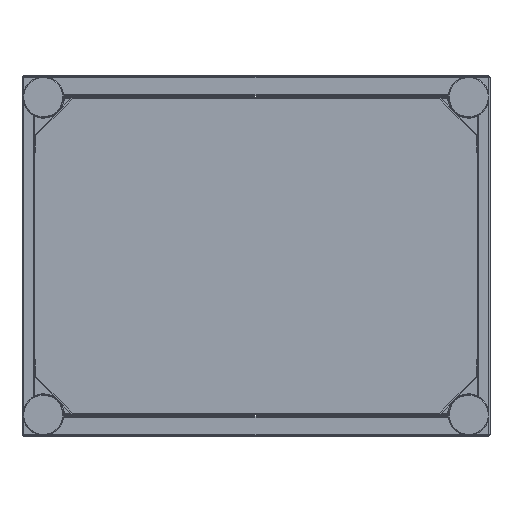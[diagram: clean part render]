
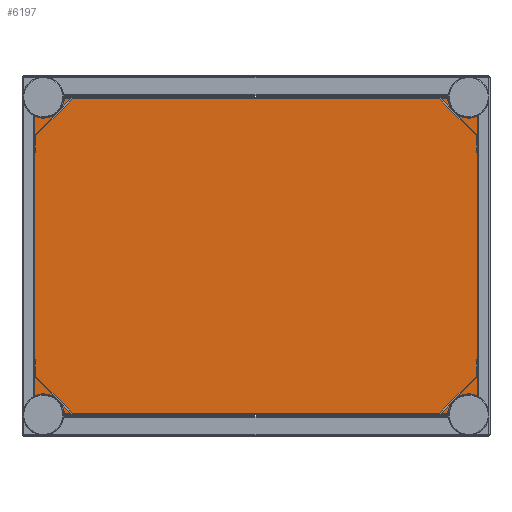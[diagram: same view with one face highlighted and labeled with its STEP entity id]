
A CAD part, front view. The second image highlights one B-rep face of the part: STEP entity #6197.
In plain terms, the highlighted planar face has unit normal (0, -1, 0).
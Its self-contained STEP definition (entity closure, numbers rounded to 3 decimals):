
#5638=CARTESIAN_POINT('',(315.85,-375.,-235.85));
#5639=DIRECTION('',(0.,1.,0.));
#5640=DIRECTION('',(-1.,0.,0.027));
#5641=AXIS2_PLACEMENT_3D('',#5638,#5639,#5640);
#5715=CARTESIAN_POINT('',(315.85,-375.,235.85));
#5716=DIRECTION('',(0.,1.,0.));
#5717=DIRECTION('',(0.422,0.,-0.907));
#5718=AXIS2_PLACEMENT_3D('',#5715,#5716,#5717);
#5796=DIRECTION('',(-1.,0.,0.));
#5797=VECTOR('',#5796,569.423);
#5798=CARTESIAN_POINT('',(284.712,-375.,235.));
#5799=LINE('',#5798,#5797);
#5800=DIRECTION('',(0.,0.,1.));
#5801=VECTOR('',#5800,415.223);
#5802=CARTESIAN_POINT('',(329.,-375.,-207.612));
#5803=LINE('',#5802,#5801);
#5804=DIRECTION('',(1.,0.,0.));
#5805=VECTOR('',#5804,569.423);
#5806=CARTESIAN_POINT('',(-284.712,-375.,-235.));
#5807=LINE('',#5806,#5805);
#5808=DIRECTION('',(0.,0.,-1.));
#5809=VECTOR('',#5808,415.223);
#5810=CARTESIAN_POINT('',(-329.,-375.,207.612));
#5811=LINE('',#5810,#5809);
#5836=CARTESIAN_POINT('',(-315.85,-375.,235.85));
#5837=DIRECTION('',(0.,1.,0.));
#5838=DIRECTION('',(1.,0.,-0.027));
#5839=AXIS2_PLACEMENT_3D('',#5836,#5837,#5838);
#5857=CARTESIAN_POINT('',(-315.85,-375.,-235.85));
#5858=DIRECTION('',(0.,1.,0.));
#5859=DIRECTION('',(-0.422,0.,0.907));
#5860=AXIS2_PLACEMENT_3D('',#5857,#5858,#5859);
#5958=CARTESIAN_POINT('',(-284.712,-375.,235.));
#5959=CARTESIAN_POINT('',(-329.,-375.,207.612));
#5960=VERTEX_POINT('',#5958);
#5961=VERTEX_POINT('',#5959);
#5962=CARTESIAN_POINT('',(329.,-375.,207.612));
#5963=CARTESIAN_POINT('',(284.712,-375.,235.));
#5964=VERTEX_POINT('',#5962);
#5965=VERTEX_POINT('',#5963);
#5966=CARTESIAN_POINT('',(284.712,-375.,-235.));
#5967=CARTESIAN_POINT('',(329.,-375.,-207.612));
#5968=VERTEX_POINT('',#5966);
#5969=VERTEX_POINT('',#5967);
#5970=CARTESIAN_POINT('',(-329.,-375.,-207.612));
#5971=CARTESIAN_POINT('',(-284.712,-375.,-235.));
#5972=VERTEX_POINT('',#5970);
#5973=VERTEX_POINT('',#5971);
#6177=CARTESIAN_POINT('',(0.,-375.,0.));
#6178=DIRECTION('',(0.,-1.,0.));
#6179=DIRECTION('',(-1.,0.,0.));
#6180=AXIS2_PLACEMENT_3D('',#6177,#6178,#6179);
#6181=PLANE('',#6180);
#6183=ORIENTED_EDGE('',*,*,#6182,.F.);
#6185=ORIENTED_EDGE('',*,*,#6184,.F.);
#6186=ORIENTED_EDGE('',*,*,#6097,.F.);
#6187=ORIENTED_EDGE('',*,*,#6171,.F.);
#6188=ORIENTED_EDGE('',*,*,#6022,.F.);
#6190=ORIENTED_EDGE('',*,*,#6189,.F.);
#6192=ORIENTED_EDGE('',*,*,#6191,.F.);
#6194=ORIENTED_EDGE('',*,*,#6193,.F.);
#6195=EDGE_LOOP('',(#6183,#6185,#6186,#6187,#6188,#6190,#6192,#6194));
#6196=FACE_OUTER_BOUND('',#6195,.F.);
#5642=CIRCLE('',#5641,31.15);
#5719=CIRCLE('',#5718,31.15);
#5840=CIRCLE('',#5839,31.15);
#5861=CIRCLE('',#5860,31.15);
#6022=EDGE_CURVE('',#5968,#5969,#5642,.T.);
#6097=EDGE_CURVE('',#5964,#5965,#5719,.T.);
#6171=EDGE_CURVE('',#5969,#5964,#5803,.T.);
#6182=EDGE_CURVE('',#5960,#5961,#5840,.T.);
#6184=EDGE_CURVE('',#5965,#5960,#5799,.T.);
#6189=EDGE_CURVE('',#5973,#5968,#5807,.T.);
#6191=EDGE_CURVE('',#5972,#5973,#5861,.T.);
#6193=EDGE_CURVE('',#5961,#5972,#5811,.T.);
#6197=ADVANCED_FACE('',(#6196),#6181,.T.);
